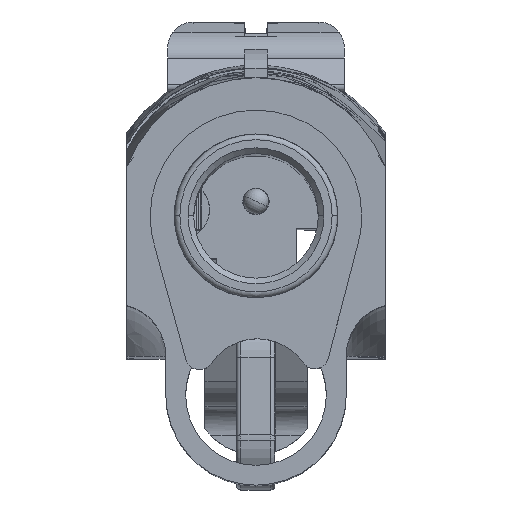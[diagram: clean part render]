
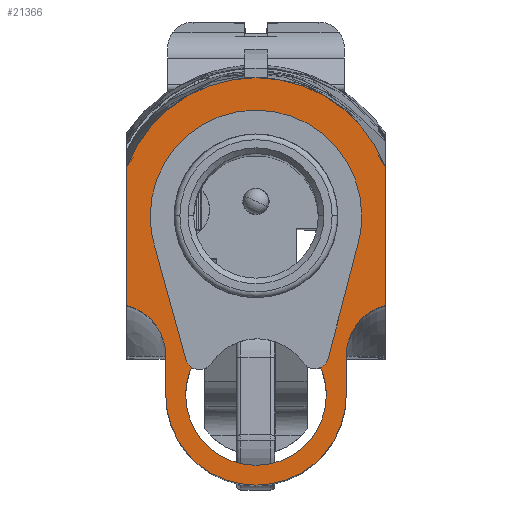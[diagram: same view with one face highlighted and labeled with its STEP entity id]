
A CAD part, top view. The second image highlights one B-rep face of the part: STEP entity #21366.
In plain terms, the highlighted planar face has unit normal (0, 0, 1).
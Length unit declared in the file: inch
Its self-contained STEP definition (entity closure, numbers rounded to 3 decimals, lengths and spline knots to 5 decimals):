
#378 = CARTESIAN_POINT ( 'NONE',  ( 0.20719, 0., 0. ) ) ;
#538 = DIRECTION ( 'NONE',  ( 0., 0., -1. ) ) ;
#639 = ORIENTED_EDGE ( 'NONE', *, *, #4908, .T. ) ;
#864 = DIRECTION ( 'NONE',  ( 0., -1., 0. ) ) ;
#920 = DIRECTION ( 'NONE',  ( 0., 0., -1. ) ) ;
#1129 = CARTESIAN_POINT ( 'NONE',  ( 0., 0.496, 0. ) ) ;
#1433 = DIRECTION ( 'NONE',  ( 0., 0., 1. ) ) ;
#1497 = CARTESIAN_POINT ( 'NONE',  ( 0., -0.139, 0. ) ) ;
#2093 = AXIS2_PLACEMENT_3D ( 'NONE', #1497, #26352, #23510 ) ;
#2272 = LINE ( 'NONE', #27137, #7120 ) ;
#2644 = VERTEX_POINT ( 'NONE', #21567 ) ;
#3224 = LINE ( 'NONE', #378, #13166 ) ;
#3359 = CARTESIAN_POINT ( 'NONE',  ( -0.32, -0.139, 0. ) ) ;
#3386 = CARTESIAN_POINT ( 'NONE',  ( -0.50438, 0., 0. ) ) ;
#3570 = EDGE_CURVE ( 'NONE', #8714, #6014, #7134, .T. ) ;
#3698 = CARTESIAN_POINT ( 'NONE',  ( -0.32, -0.139, 0. ) ) ;
#3758 = CARTESIAN_POINT ( 'NONE',  ( 0., 0.496, 0. ) ) ;
#4027 = ORIENTED_EDGE ( 'NONE', *, *, #26591, .T. ) ;
#4097 = VECTOR ( 'NONE', #16122, 39.37008 ) ;
#4266 = CARTESIAN_POINT ( 'NONE',  ( 0., 0.496, 0. ) ) ;
#4580 = CARTESIAN_POINT ( 'NONE',  ( -0.458, 0.17845, 0. ) ) ;
#4908 = EDGE_CURVE ( 'NONE', #10035, #21492, #2272, .T. ) ;
#5021 = AXIS2_PLACEMENT_3D ( 'NONE', #23873, #21036, #18202 ) ;
#5107 = ORIENTED_EDGE ( 'NONE', *, *, #5146, .F. ) ;
#5146 = EDGE_CURVE ( 'NONE', #20212, #16083, #20149, .T. ) ;
#5404 = VERTEX_POINT ( 'NONE', #16430 ) ;
#5732 = ORIENTED_EDGE ( 'NONE', *, *, #22076, .T. ) ;
#5747 = AXIS2_PLACEMENT_3D ( 'NONE', #3386, #538, #25387 ) ;
#5920 = ORIENTED_EDGE ( 'NONE', *, *, #19422, .T. ) ;
#5981 = CARTESIAN_POINT ( 'NONE',  ( -0.2495, -0.139, 0. ) ) ;
#6014 = VERTEX_POINT ( 'NONE', #22894 ) ;
#6164 = ORIENTED_EDGE ( 'NONE', *, *, #20491, .T. ) ;
#6531 = LINE ( 'NONE', #3698, #19074 ) ;
#6585 = PLANE ( 'NONE',  #18051 ) ;
#6774 = VERTEX_POINT ( 'NONE', #17235 ) ;
#7120 = VECTOR ( 'NONE', #24295, 39.37008 ) ;
#7134 = CIRCLE ( 'NONE', #2093, 0.2495 ) ;
#7581 = VERTEX_POINT ( 'NONE', #3359 ) ;
#7791 = DIRECTION ( 'NONE',  ( 0., 1., 0. ) ) ;
#8339 = ORIENTED_EDGE ( 'NONE', *, *, #9054, .T. ) ;
#8479 = CARTESIAN_POINT ( 'NONE',  ( -0.20719, 0.21454, 0. ) ) ;
#8714 = VERTEX_POINT ( 'NONE', #5981 ) ;
#8837 = ORIENTED_EDGE ( 'NONE', *, *, #16689, .T. ) ;
#9005 = VERTEX_POINT ( 'NONE', #27397 ) ;
#9054 = EDGE_CURVE ( 'NONE', #21492, #11049, #16367, .T. ) ;
#9711 = ORIENTED_EDGE ( 'NONE', *, *, #14208, .T. ) ;
#10035 = VERTEX_POINT ( 'NONE', #26686 ) ;
#10459 = CARTESIAN_POINT ( 'NONE',  ( 0., -0.139, 0. ) ) ;
#10622 = CARTESIAN_POINT ( 'NONE',  ( 0.458, 0.67017, 0. ) ) ;
#11049 = VERTEX_POINT ( 'NONE', #12653 ) ;
#11225 = CIRCLE ( 'NONE', #18972, 0.3495 ) ;
#11692 = EDGE_LOOP ( 'NONE', ( #8339, #23808, #4027, #9711, #14271, #6164, #5732, #639 ) ) ;
#12162 = VERTEX_POINT ( 'NONE', #24636 ) ;
#12233 = EDGE_LOOP ( 'NONE', ( #8837, #5920, #25830, #25046, #5107, #13791, #20875, #16868 ) ) ;
#12364 = DIRECTION ( 'NONE',  ( 1., 0., 0. ) ) ;
#12653 = CARTESIAN_POINT ( 'NONE',  ( -0.32, 0., 0. ) ) ;
#13122 = DIRECTION ( 'NONE',  ( 1., 0., 0. ) ) ;
#13166 = VECTOR ( 'NONE', #25229, 39.37008 ) ;
#13791 = ORIENTED_EDGE ( 'NONE', *, *, #26118, .F. ) ;
#14061 = DIRECTION ( 'NONE',  ( 0., 1., 0. ) ) ;
#14208 = EDGE_CURVE ( 'NONE', #17203, #2644, #25409, .T. ) ;
#14271 = ORIENTED_EDGE ( 'NONE', *, *, #19502, .F. ) ;
#14625 = EDGE_CURVE ( 'NONE', #12162, #9005, #3224, .T. ) ;
#15067 = EDGE_CURVE ( 'NONE', #11049, #7581, #6531, .T. ) ;
#15083 = CIRCLE ( 'NONE', #23909, 0.2495 ) ;
#15195 = FACE_BOUND ( 'NONE', #12233, .T. ) ;
#15210 = DIRECTION ( 'NONE',  ( 0., 0., -1. ) ) ;
#15404 = AXIS2_PLACEMENT_3D ( 'NONE', #18804, #15981, #13122 ) ;
#15716 = CIRCLE ( 'NONE', #26282, 0.49 ) ;
#15740 = VERTEX_POINT ( 'NONE', #21524 ) ;
#15981 = DIRECTION ( 'NONE',  ( 0., 0., 1. ) ) ;
#16083 = VERTEX_POINT ( 'NONE', #8479 ) ;
#16109 = DIRECTION ( 'NONE',  ( 1., 0., 0. ) ) ;
#16122 = DIRECTION ( 'NONE',  ( 0., -1., 0. ) ) ;
#16367 = CIRCLE ( 'NONE', #5747, 0.18438 ) ;
#16430 = CARTESIAN_POINT ( 'NONE',  ( 0.458, 0.17845, 0. ) ) ;
#16629 = FACE_OUTER_BOUND ( 'NONE', #11692, .T. ) ;
#16689 = EDGE_CURVE ( 'NONE', #12162, #6774, #15083, .T. ) ;
#16733 = DIRECTION ( 'NONE',  ( -1., 0., 0. ) ) ;
#16868 = ORIENTED_EDGE ( 'NONE', *, *, #14625, .F. ) ;
#16907 = CARTESIAN_POINT ( 'NONE',  ( 0.32, -0.139, 0. ) ) ;
#17203 = VERTEX_POINT ( 'NONE', #19337 ) ;
#17235 = CARTESIAN_POINT ( 'NONE',  ( 0.2495, -0.139, 0. ) ) ;
#17707 = AXIS2_PLACEMENT_3D ( 'NONE', #18046, #15210, #12364 ) ;
#17923 = EDGE_CURVE ( 'NONE', #16083, #6014, #21788, .T. ) ;
#18046 = CARTESIAN_POINT ( 'NONE',  ( 0., -0.139, 0. ) ) ;
#18051 = AXIS2_PLACEMENT_3D ( 'NONE', #3758, #920, #25764 ) ;
#18202 = DIRECTION ( 'NONE',  ( -1., 0., 0. ) ) ;
#18346 = CIRCLE ( 'NONE', #21479, 0.3495 ) ;
#18473 = VERTEX_POINT ( 'NONE', #21761 ) ;
#18804 = CARTESIAN_POINT ( 'NONE',  ( 0., -0.139, 0. ) ) ;
#18932 = DIRECTION ( 'NONE',  ( 0., 0., 1. ) ) ;
#18945 = CARTESIAN_POINT ( 'NONE',  ( -0.20719, 0., 0. ) ) ;
#18972 = AXIS2_PLACEMENT_3D ( 'NONE', #1129, #23144, #20318 ) ;
#19074 = VECTOR ( 'NONE', #864, 39.37008 ) ;
#19337 = CARTESIAN_POINT ( 'NONE',  ( 0.32, -0.139, 0. ) ) ;
#19422 = EDGE_CURVE ( 'NONE', #6774, #8714, #21793, .T. ) ;
#19502 = EDGE_CURVE ( 'NONE', #5404, #2644, #23884, .T. ) ;
#19567 = DIRECTION ( 'NONE',  ( 0., 0., 1. ) ) ;
#20149 = CIRCLE ( 'NONE', #23554, 0.3495 ) ;
#20212 = VERTEX_POINT ( 'NONE', #20981 ) ;
#20251 = EDGE_CURVE ( 'NONE', #9005, #15740, #11225, .T. ) ;
#20318 = DIRECTION ( 'NONE',  ( 1., 0., 0. ) ) ;
#20491 = EDGE_CURVE ( 'NONE', #5404, #18473, #24813, .T. ) ;
#20530 = CIRCLE ( 'NONE', #15404, 0.32 ) ;
#20875 = ORIENTED_EDGE ( 'NONE', *, *, #20251, .F. ) ;
#20981 = CARTESIAN_POINT ( 'NONE',  ( -0.3495, 0.496, 0. ) ) ;
#21036 = DIRECTION ( 'NONE',  ( 0., 0., 1. ) ) ;
#21366 = ADVANCED_FACE ( 'NONE', ( #15195, #16629 ), #6585, .F. ) ;
#21479 = AXIS2_PLACEMENT_3D ( 'NONE', #4266, #1433, #26290 ) ;
#21492 = VERTEX_POINT ( 'NONE', #4580 ) ;
#21524 = CARTESIAN_POINT ( 'NONE',  ( 0.3495, 0.496, 0. ) ) ;
#21567 = CARTESIAN_POINT ( 'NONE',  ( 0.32, 0., 0. ) ) ;
#21761 = CARTESIAN_POINT ( 'NONE',  ( 0.458, 0.67017, 0. ) ) ;
#21777 = CARTESIAN_POINT ( 'NONE',  ( 0., 0.496, 0. ) ) ;
#21788 = LINE ( 'NONE', #18945, #4097 ) ;
#21793 = CIRCLE ( 'NONE', #17707, 0.2495 ) ;
#22076 = EDGE_CURVE ( 'NONE', #18473, #10035, #15716, .T. ) ;
#22413 = CARTESIAN_POINT ( 'NONE',  ( 0., 0.496, 0. ) ) ;
#22894 = CARTESIAN_POINT ( 'NONE',  ( -0.20719, 0., 0. ) ) ;
#23144 = DIRECTION ( 'NONE',  ( 0., 0., 1. ) ) ;
#23510 = DIRECTION ( 'NONE',  ( 1., 0., 0. ) ) ;
#23554 = AXIS2_PLACEMENT_3D ( 'NONE', #21777, #18932, #16109 ) ;
#23808 = ORIENTED_EDGE ( 'NONE', *, *, #15067, .T. ) ;
#23873 = CARTESIAN_POINT ( 'NONE',  ( 0.50438, 0., 0. ) ) ;
#23884 = CIRCLE ( 'NONE', #5021, 0.18438 ) ;
#23909 = AXIS2_PLACEMENT_3D ( 'NONE', #10459, #26814, #23977 ) ;
#23977 = DIRECTION ( 'NONE',  ( 1., 0., 0. ) ) ;
#24295 = DIRECTION ( 'NONE',  ( 0., -1., 0. ) ) ;
#24636 = CARTESIAN_POINT ( 'NONE',  ( 0.20719, 0., 0. ) ) ;
#24813 = LINE ( 'NONE', #10622, #27507 ) ;
#25046 = ORIENTED_EDGE ( 'NONE', *, *, #17923, .F. ) ;
#25229 = DIRECTION ( 'NONE',  ( 0., 1., 0. ) ) ;
#25387 = DIRECTION ( 'NONE',  ( 1., 0., 0. ) ) ;
#25409 = LINE ( 'NONE', #16907, #25659 ) ;
#25659 = VECTOR ( 'NONE', #14061, 39.37008 ) ;
#25764 = DIRECTION ( 'NONE',  ( -1., 0., 0. ) ) ;
#25830 = ORIENTED_EDGE ( 'NONE', *, *, #3570, .T. ) ;
#26118 = EDGE_CURVE ( 'NONE', #15740, #20212, #18346, .T. ) ;
#26282 = AXIS2_PLACEMENT_3D ( 'NONE', #22413, #19567, #16733 ) ;
#26290 = DIRECTION ( 'NONE',  ( 1., 0., 0. ) ) ;
#26352 = DIRECTION ( 'NONE',  ( 0., 0., -1. ) ) ;
#26591 = EDGE_CURVE ( 'NONE', #7581, #17203, #20530, .T. ) ;
#26686 = CARTESIAN_POINT ( 'NONE',  ( -0.458, 0.67017, 0. ) ) ;
#26814 = DIRECTION ( 'NONE',  ( 0., 0., -1. ) ) ;
#27137 = CARTESIAN_POINT ( 'NONE',  ( -0.458, 0., 0. ) ) ;
#27397 = CARTESIAN_POINT ( 'NONE',  ( 0.20719, 0.21454, 0. ) ) ;
#27507 = VECTOR ( 'NONE', #7791, 39.37008 ) ;
